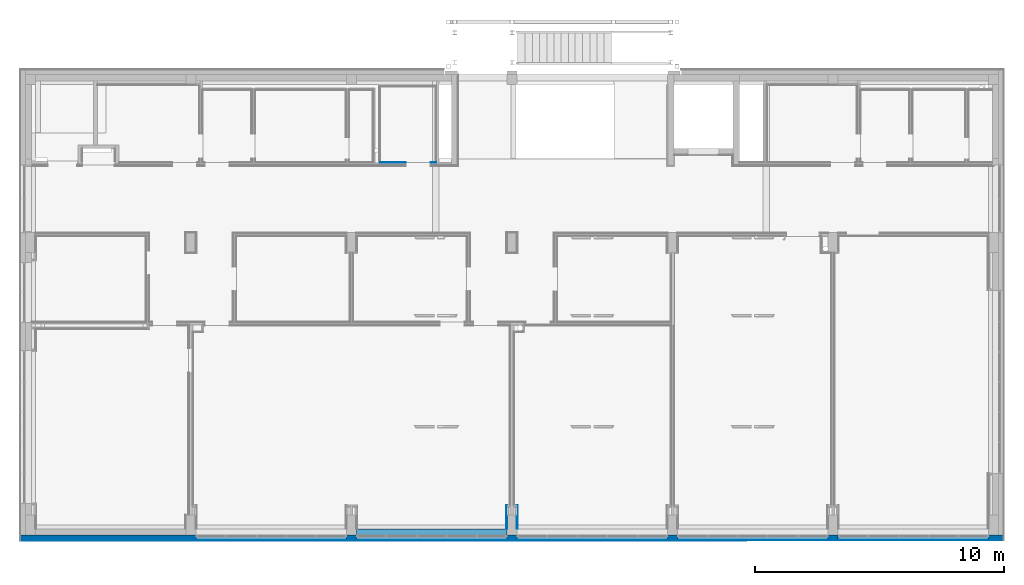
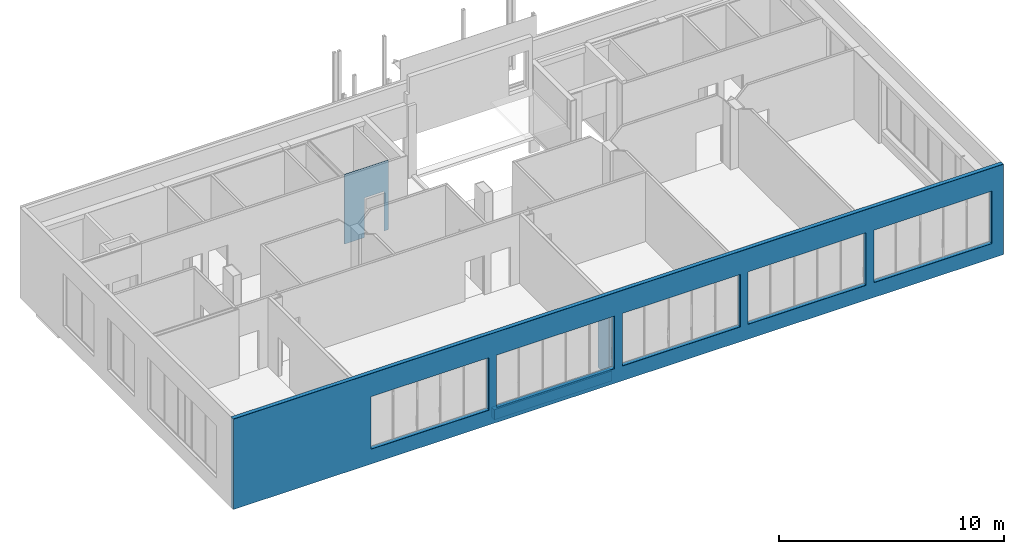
# One storey, part 19 of 29: 6 walls, 11 openings.
"""IFC2X3 building model written with IfcOpenShell, lengths in centimetres."""

import ifcopenshell
import ifcopenshell.guid

model = None  # the IFC model being written
_history = None  # IfcOwnerHistory: only IFC2X3 demands one
_inside = {}  # id of a spatial element -> (the spatial element, [elements in it])
_under = {}  # id of a project, library or spatial element -> (it, [spatial elements below it])
_declared = {}  # id of a project -> (the project, [libraries it declares])
_typed = {}  # id of a type object -> (the type object, [elements of that type])
_made_of = {}  # id of a material, layer set ... -> (it, [elements and type objects made of it])


def new_model(schema):
    """Start an empty IFC model of exactly this schema.

    Asked for "IFC4X3", IfcOpenShell would pick the latest addendum, in which some entities
    have other attributes; the version numbers below select the first issue.
    IFC2X3 requires an IfcOwnerHistory on every rooted entity: one is made here for all.
    """
    global model, _history
    if schema == "IFC4X3":
        model = ifcopenshell.file(schema_version=(4, 3, 0, 0))
    else:
        model = ifcopenshell.file(schema=schema)
    _inside.clear()
    _under.clear()
    _declared.clear()
    _typed.clear()
    _made_of.clear()
    _history = None
    if model.schema == "IFC2X3":
        org = make("IfcOrganization", Name="unknown")
        user = make(
            "IfcPersonAndOrganization",
            ThePerson=make("IfcPerson", FamilyName="unknown"),
            TheOrganization=org,
        )
        app = make(
            "IfcApplication",
            ApplicationDeveloper=org,
            Version="unknown",
            ApplicationFullName="unknown",
            ApplicationIdentifier="unknown",
        )
        _history = make(
            "IfcOwnerHistory",
            OwningUser=user,
            OwningApplication=app,
            ChangeAction="ADDED",
            CreationDate=0,
        )
    return model


def make(cls, **values):
    """One entity of the class cls with the attributes given. An attribute that is None is left unset."""
    return model.create_entity(
        cls, **{name: value for name, value in values.items() if value is not None}
    )


def entity(cls, *values):
    """Any entity or typed value of the class cls, its attributes in the order of the schema. None: left unset."""
    e = model.create_entity(cls)
    for i, value in enumerate(values):
        if value is not None:
            e[i] = value
    return e


def rooted(cls, **values):
    """An entity with a GlobalId (a new one), such as an element, a storey or a relation."""
    return make(cls, GlobalId=ifcopenshell.guid.new(), OwnerHistory=_history, **values)


def si_unit(unit_type, name, prefix=None):
    """IfcSIUnit, for example si_unit("LENGTHUNIT", "METRE", prefix="MILLI")."""
    return make("IfcSIUnit", UnitType=unit_type, Prefix=prefix, Name=name)


def converted_unit(unit_type, name, factor, base, dimensions=None, offset=None):
    """IfcConversionBasedUnit, such as the inch: factor (a typed value) times the base unit."""
    return make(
        "IfcConversionBasedUnit"
        if offset is None
        else "IfcConversionBasedUnitWithOffset",
        ConversionOffset=offset,
        Dimensions=None
        if dimensions is None
        else entity("IfcDimensionalExponents", *dimensions),
        UnitType=unit_type,
        Name=name,
        ConversionFactor=make(
            "IfcMeasureWithUnit", ValueComponent=factor, UnitComponent=base
        ),
    )


def derived_unit(unit_type, elements):
    """IfcDerivedUnit: a product of units, each with its exponent."""
    return make(
        "IfcDerivedUnit",
        Elements=[
            make("IfcDerivedUnitElement", Unit=unit, Exponent=power)
            for unit, power in elements
        ],
        UnitType=unit_type,
    )


def assignment(units):
    """IfcUnitAssignment: the units of a project."""
    return None if units is None else make("IfcUnitAssignment", Units=units)


def point(xyz):
    """IfcCartesianPoint."""
    return None if xyz is None else make("IfcCartesianPoint", Coordinates=xyz)


def direction(xyz):
    """IfcDirection."""
    return None if xyz is None else make("IfcDirection", DirectionRatios=xyz)


def frame(location, z_axis=None, x_axis=None):
    """IfcAxis2Placement3D, a coordinate frame: its origin and axes. An axis left out is left unset."""
    return make(
        "IfcAxis2Placement3D",
        Location=point(location),
        Axis=direction(z_axis),
        RefDirection=direction(x_axis),
    )


def frame_2d(location, x_axis=None):
    """IfcAxis2Placement2D, a coordinate frame in the plane: its origin and x axis."""
    return make(
        "IfcAxis2Placement2D", Location=point(location), RefDirection=direction(x_axis)
    )


def origin():
    """The frame at (0, 0, 0) with its axes left unset."""
    return frame((0.0, 0.0, 0.0))


def place(relative_to, where):
    """IfcLocalPlacement: puts the frame where relative to a parent placement (None: the world)."""
    return make(
        "IfcLocalPlacement", PlacementRelTo=relative_to, RelativePlacement=where
    )


def context(
    kind, dimensions, precision=None, world=None, true_north=None, identifier=None
):
    """IfcGeometricRepresentationContext, for example the 3D "Model" context."""
    return make(
        "IfcGeometricRepresentationContext",
        ContextIdentifier=identifier,
        ContextType=kind,
        CoordinateSpaceDimension=dimensions,
        Precision=precision,
        WorldCoordinateSystem=world,
        TrueNorth=true_north,
    )


def subcontext(parent, identifier, kind, view, scale=None):
    """IfcGeometricRepresentationSubContext, for example "Body" below "Model"."""
    return make(
        "IfcGeometricRepresentationSubContext",
        ContextIdentifier=identifier,
        ContextType=kind,
        ParentContext=parent,
        TargetScale=scale,
        TargetView=view,
    )


def project(units=None, contexts=None):
    """IfcProject with its units and contexts."""
    return rooted(
        "IfcProject",
        Name="project",
        RepresentationContexts=contexts,
        UnitsInContext=assignment(units),
    )


def spatial(cls, under=None, at=None, **own):
    """A site, building, storey or space (cls), placed at a placement, below another one or the project."""
    s = rooted(cls, ObjectPlacement=at, **own)
    if under is not None:
        _under.setdefault(under.id(), (under, []))[1].append(s)
    return s


def profile(cls, at=None, kind="AREA", **sizes):
    """A parametric profile (cls). Its sizes go by their IFC names, for example OverallWidth=200.0."""
    return make(cls, ProfileType=kind, Position=at, **sizes)


def rectangle(**sizes):
    """IfcRectangleProfileDef."""
    return profile("IfcRectangleProfileDef", **sizes)


def extrude(swept, where, along, depth):
    """IfcExtrudedAreaSolid: the profile swept, set in the frame where, extruded along a direction by depth."""
    return make(
        "IfcExtrudedAreaSolid",
        SweptArea=swept,
        Position=where,
        ExtrudedDirection=direction(along),
        Depth=depth,
    )


def shape(context_of_items, identifier, shape_type, items):
    """IfcShapeRepresentation: the items that make up one representation, for example the "Body"."""
    return make(
        "IfcShapeRepresentation",
        ContextOfItems=context_of_items,
        RepresentationIdentifier=identifier,
        RepresentationType=shape_type,
        Items=items,
    )


def material(Name=None, Category=None):
    """IfcMaterial."""
    return make("IfcMaterial", Name=Name, Category=Category)


def layer(
    of_material, thickness, ventilated=None, Name=None, Category=None, Priority=None
):
    """IfcMaterialLayer: one layer of a wall or slab, of a material (None: an air gap)."""
    return make(
        "IfcMaterialLayer",
        Material=of_material,
        LayerThickness=thickness,
        IsVentilated=ventilated,
        Name=Name,
        Category=Category,
        Priority=Priority,
    )


def layer_set(layers, Name=None):
    """IfcMaterialLayerSet."""
    return make("IfcMaterialLayerSet", MaterialLayers=layers, LayerSetName=Name)


def layer_usage(for_layer_set, set_direction, sense, offset, extent=None):
    """IfcMaterialLayerSetUsage: how a layer set lies in its element."""
    return make(
        "IfcMaterialLayerSetUsage",
        ForLayerSet=for_layer_set,
        LayerSetDirection=set_direction,
        DirectionSense=sense,
        OffsetFromReferenceLine=offset,
        ReferenceExtent=extent,
    )


def made_of(thing, what):
    """Note that an element or type object is made of a material, layer set ...; save() writes the relation."""
    if what is not None:
        _made_of.setdefault(what.id(), (what, []))[1].append(thing)
    return thing


def type_object(cls, material=None, **own):
    """A type object (cls), such as IfcWallType, which elements share."""
    return made_of(rooted(cls, **own), material)


def element(
    cls,
    number,
    at=None,
    inside=None,
    cuts=None,
    type_object=None,
    material=None,
    context=None,
    identifier="Body",
    shape_type=None,
    held_by="IfcProductDefinitionShape",
    body=None,
    shapes=None,
    **own,
):
    """One element of the class cls, such as IfcWall. Its Tag is "e" and its number.

    at: its placement. inside: the storey or other place that contains it. cuts: it is an
    opening in that element (IfcRelVoidsElement). A single representation is given by context,
    identifier, shape_type and body (its items); several are given by shapes. held_by: the class
    of the entity that holds the representations. save() writes the other relations.
    """
    e = rooted(cls, Tag="e%d" % number, ObjectPlacement=at, **own)
    if body is not None:
        shapes = [shape(context, identifier, shape_type, body)]
    if shapes is not None:
        e.Representation = make(held_by, Representations=shapes)
    if inside is not None:
        _inside.setdefault(inside.id(), (inside, []))[1].append(e)
    if cuts is not None:
        rooted(
            "IfcRelVoidsElement", RelatingBuildingElement=cuts, RelatedOpeningElement=e
        )
    if type_object is not None:
        _typed.setdefault(type_object.id(), (type_object, []))[1].append(e)
    return made_of(e, material)


def aggregate(whole, parts):
    """IfcRelAggregates: a whole, such as a stair, and the parts it consists of."""
    return rooted("IfcRelAggregates", RelatingObject=whole, RelatedObjects=parts)


def save(model, path):
    """Write the relations noted so far, then the file.

    IfcRelAggregates (storeys below a building ...), IfcRelContainedInSpatialStructure (elements
    in a storey), IfcRelDefinesByType, IfcRelAssociatesMaterial and IfcRelDeclares: one each for
    every whole, place, type object, material and project.
    """
    for whole, parts in _under.values():
        aggregate(whole, parts)
    for where, things in _inside.values():
        rooted(
            "IfcRelContainedInSpatialStructure",
            RelatedElements=things,
            RelatingStructure=where,
        )
    for kind, things in _typed.values():
        rooted("IfcRelDefinesByType", RelatedObjects=things, RelatingType=kind)
    for what, things in _made_of.values():
        rooted("IfcRelAssociatesMaterial", RelatedObjects=things, RelatingMaterial=what)
    for by, libraries in _declared.values():
        rooted("IfcRelDeclares", RelatingContext=by, RelatedDefinitions=libraries)
    model.write(path)


model = new_model("IFC2X3")

# Units and contexts
model_context = context("Model", 3, precision=0.001, world=origin(), true_north=direction((6.12303176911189e-17, 1.0)))
body_context = subcontext(model_context, "Body", "Model", "MODEL_VIEW")
ifc_project = project(units=[si_unit("LENGTHUNIT", "METRE", prefix="CENTI"), si_unit("AREAUNIT", "SQUARE_METRE"), si_unit("VOLUMEUNIT", "CUBIC_METRE"), converted_unit("PLANEANGLEUNIT", "DEGREE", entity("IfcRatioMeasure", 0.0174532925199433), si_unit("PLANEANGLEUNIT", "RADIAN"), dimensions=[0, 0, 0, 0, 0, 0, 0]), si_unit("MASSUNIT", "GRAM", prefix="KILO"), derived_unit("MASSDENSITYUNIT", [(si_unit("MASSUNIT", "GRAM", prefix="KILO"), 1), (si_unit("LENGTHUNIT", "METRE"), -3)]), derived_unit("MOMENTOFINERTIAUNIT", [(si_unit("LENGTHUNIT", "METRE"), 4)]), si_unit("TIMEUNIT", "SECOND"), si_unit("FREQUENCYUNIT", "HERTZ"), si_unit("THERMODYNAMICTEMPERATUREUNIT", "DEGREE_CELSIUS"), derived_unit("THERMALTRANSMITTANCEUNIT", [(si_unit("MASSUNIT", "GRAM", prefix="KILO"), 1), (si_unit("THERMODYNAMICTEMPERATUREUNIT", "KELVIN"), -1), (si_unit("TIMEUNIT", "SECOND"), -3)]), derived_unit("VOLUMETRICFLOWRATEUNIT", [(si_unit("LENGTHUNIT", "METRE"), 3), (si_unit("TIMEUNIT", "SECOND"), -1)]), si_unit("ELECTRICCURRENTUNIT", "AMPERE"), si_unit("ELECTRICVOLTAGEUNIT", "VOLT"), si_unit("POWERUNIT", "WATT"), si_unit("FORCEUNIT", "NEWTON", prefix="KILO"), si_unit("ILLUMINANCEUNIT", "LUX"), si_unit("LUMINOUSFLUXUNIT", "LUMEN"), si_unit("LUMINOUSINTENSITYUNIT", "CANDELA"), derived_unit("USERDEFINED", [(si_unit("MASSUNIT", "GRAM", prefix="KILO"), -1), (si_unit("LENGTHUNIT", "METRE"), -2), (si_unit("TIMEUNIT", "SECOND"), 3), (si_unit("LUMINOUSFLUXUNIT", "LUMEN"), 1)]), derived_unit("LINEARVELOCITYUNIT", [(si_unit("LENGTHUNIT", "METRE"), 1), (si_unit("TIMEUNIT", "SECOND"), -1)]), si_unit("PRESSUREUNIT", "PASCAL"), derived_unit("USERDEFINED", [(si_unit("LENGTHUNIT", "METRE"), -2), (si_unit("MASSUNIT", "GRAM", prefix="KILO"), 1), (si_unit("TIMEUNIT", "SECOND"), -2)]), derived_unit("LINEARFORCEUNIT", [(si_unit("MASSUNIT", "GRAM", prefix="KILO"), 1), (si_unit("LENGTHUNIT", "METRE"), 1), (si_unit("TIMEUNIT", "SECOND"), -2), (si_unit("LENGTHUNIT", "METRE"), -1)]), derived_unit("PLANARFORCEUNIT", [(si_unit("MASSUNIT", "GRAM", prefix="KILO"), 1), (si_unit("LENGTHUNIT", "METRE"), 1), (si_unit("TIMEUNIT", "SECOND"), -2), (si_unit("LENGTHUNIT", "METRE"), -2)])], contexts=[model_context])

# Site, building, storey
site_placement = place(None, origin())
site = spatial("IfcSite", under=ifc_project, at=site_placement, Name="Default", CompositionType="ELEMENT")
building_placement = place(site_placement, origin())
building = spatial("IfcBuilding", under=site, at=building_placement, CompositionType="ELEMENT")
storey_placement = place(building_placement, frame((0.0, 0.0, 545.0)))
storey = spatial("IfcBuildingStorey", under=building, at=storey_placement, Name="Poziom 1K +5,45", CompositionType="ELEMENT", Elevation=544.999999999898)

# Wall
ifc_material_1 = material(Name="Pustak ceramiczny, klasa 15")
ifc_layer_1 = layer(ifc_material_1, 25.0)
ifc_layer_set_1 = layer_set([ifc_layer_1], Name="Ściana podstawowa:Ściana murowana gr. 25cm")
ifc_layer_usage_1 = layer_usage(ifc_layer_set_1, "AXIS2", "POSITIVE", -12.5)
wall_type_1 = type_object("IfcWallType", Name="Ściana podstawowa:Ściana murowana gr. 25cm", PredefinedType="STANDARD", material=ifc_layer_set_1)
wall_1_placement = place(storey_placement, frame((-1604.26510661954, 267.62765760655, 0.0)))
element("IfcWallStandardCase", 1, at=wall_1_placement, inside=storey, type_object=wall_type_1, material=ifc_layer_usage_1, Name="Ściana podstawowa:Ściana murowana gr. 25cm", ObjectType="Ściana podstawowa:Ściana murowana gr. 25cm", context=body_context, shape_type="SweptSolid", body=[
    extrude(rectangle(XDim=605.000000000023, YDim=24.9999999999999, at=frame_2d((302.500000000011, 0.0), x_axis=(-1.0, 0.0))), origin(), (0.0, 0.0, 1.0), 55.0000000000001),
])

# Wall, opening
ifc_material_2 = material(Name="Tynk gipsowy")
ifc_layer_2 = layer(ifc_material_2, 2.5)
ifc_layer_set_2 = layer_set([ifc_layer_2], Name="Ściana podstawowa:Ściana GK wykonczenie gr. 2,5cm")
ifc_layer_usage_2 = layer_usage(ifc_layer_set_2, "AXIS2", "NEGATIVE", 1.25)
wall_type_2 = type_object("IfcWallType", Name="Ściana podstawowa:Ściana GK wykonczenie gr. 2,5cm", PredefinedType="STANDARD", material=ifc_layer_set_2)
wall_2_placement = place(storey_placement, frame((-1282.7651174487, 1751.87745205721, 13.0), z_axis=(0.0, 0.0, 1.0), x_axis=(-1.0, 0.0, 0.0)))
wall_2 = element("IfcWallStandardCase", 2, at=wall_2_placement, inside=storey, type_object=wall_type_2, material=ifc_layer_usage_2, Name="Ściana podstawowa:Ściana GK wykonczenie gr. 2,5cm", ObjectType="Ściana podstawowa:Ściana GK wykonczenie gr. 2,5cm", context=body_context, shape_type="SweptSolid", body=[
    extrude(rectangle(XDim=226.500000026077, YDim=2.49999999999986, at=frame_2d((113.250000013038, 0.0), x_axis=(-1.0, 0.0))), origin(), (0.0, 0.0, 1.0), 377.000000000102),
])
opening_1_placement = place(wall_2_placement, origin())
element("IfcOpeningElement", 3, at=opening_1_placement, cuts=wall_2, Name="Ściana podstawowa:Ściana GK wykonczenie gr. 2,5cm", ObjectType="Opening", context=body_context, shape_type="SweptSolid", body=[
    extrude(rectangle(XDim=215.0, YDim=99.9999999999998, at=frame_2d((-1.10134124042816e-13, 0.0), x_axis=(0.0, 1.0))), frame((72.5000000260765, -151.15, 107.5), z_axis=(0.0, 1.0, 0.0), x_axis=(1.0, 0.0, 0.0)), (0.0, 0.0, 1.0), 304.8),
])

# Walls
ifc_layer_usage_3 = layer_usage(ifc_layer_set_2, "AXIS2", "NEGATIVE", 1.25)
wall_3_placement = place(storey_placement, frame((-1000.51509263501, 375.127452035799, 0.0), z_axis=(0.0, 0.0, 1.0), x_axis=(0.0, -1.0, 0.0)))
element("IfcWallStandardCase", 4, at=wall_3_placement, inside=storey, type_object=wall_type_2, material=ifc_layer_usage_3, Name="Ściana podstawowa:Ściana GK wykonczenie gr. 2,5cm", ObjectType="Ściana podstawowa:Ściana GK wykonczenie gr. 2,5cm", context=body_context, shape_type="SweptSolid", body=[
    extrude(rectangle(XDim=95.0, YDim=2.49999999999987, at=frame_2d((47.5, 2.88657986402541e-15), x_axis=(-1.0, 0.0))), origin(), (0.0, 0.0, 1.0), 390.000000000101),
])
ifc_layer_usage_4 = layer_usage(ifc_layer_set_2, "AXIS2", "NEGATIVE", 1.25)
wall_4_placement = place(storey_placement, frame((-958.01512023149, 375.127452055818, 0.0), z_axis=(0.0, 0.0, 1.0), x_axis=(0.0, -1.0, 0.0)))
element("IfcWallStandardCase", 5, at=wall_4_placement, inside=storey, type_object=wall_type_2, material=ifc_layer_usage_4, Name="Ściana podstawowa:Ściana GK wykonczenie gr. 2,5cm", ObjectType="Ściana podstawowa:Ściana GK wykonczenie gr. 2,5cm", context=body_context, shape_type="SweptSolid", body=[
    extrude(rectangle(XDim=94.9997944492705, YDim=2.50000000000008, at=frame_2d((47.4998972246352, 0.0), x_axis=(-1.0, 0.0))), origin(), (0.0, 0.0, 1.0), 390.000000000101),
])

# Wall, openings
ifc_material_3 = material(Name="Wełna skalna")
ifc_layer_3 = layer(ifc_material_3, 20.0)
ifc_layer_set_3 = layer_set([ifc_layer_3], Name="Ściana podstawowa:Wełna mineralna gr. 20cm")
ifc_layer_usage_5 = layer_usage(ifc_layer_set_3, "AXIS2", "NEGATIVE", 10.0)
wall_type_3 = type_object("IfcWallType", Name="Ściana podstawowa:Wełna mineralna gr. 20cm", PredefinedType="STANDARD", material=ifc_layer_set_3)
wall_5_placement = place(storey_placement, frame((-2954.26512060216, 245.127452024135, 0.0)))
wall_5 = element("IfcWallStandardCase", 6, at=wall_5_placement, inside=storey, type_object=wall_type_3, material=ifc_layer_usage_5, Name="Ściana podstawowa:Wełna mineralna gr. 20cm", ObjectType="Ściana podstawowa:Wełna mineralna gr. 20cm", context=body_context, shape_type="SweptSolid", body=[
    extrude(rectangle(XDim=3950.00000091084, YDim=20.0, at=frame_2d((1975.00000045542, 0.0), x_axis=(-1.0, 0.0))), origin(), (0.0, 0.0, 1.0), 490.000000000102),
])
opening_2_placement = place(wall_5_placement, origin())
element("IfcOpeningElement", 7, at=opening_2_placement, cuts=wall_5, Name="Ściana podstawowa:Wełna mineralna gr. 20cm", ObjectType="Opening", context=body_context, shape_type="SweptSolid", body=[
    extrude(rectangle(XDim=284.999999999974, YDim=604.999999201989, at=frame_2d((-1.98951966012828e-13, 0.0), x_axis=(0.0, -1.0))), frame((1007.50001358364, 10.0, 222.500000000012), z_axis=(0.0, 1.0, 0.0), x_axis=(-1.0, 0.0, 0.0)), (0.0, 0.0, -1.0), 20.0),
])
opening_3_placement = place(wall_5_placement, origin())
element("IfcOpeningElement", 8, at=opening_3_placement, cuts=wall_5, Name="Ściana podstawowa:Wełna mineralna gr. 20cm", ObjectType="Opening", context=body_context, shape_type="SweptSolid", body=[
    extrude(rectangle(XDim=284.999999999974, YDim=604.999985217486, at=frame_2d((-1.13686837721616e-13, 0.0), x_axis=(0.0, -1.0))), frame((1652.50002057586, 10.0, 222.500000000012), z_axis=(0.0, 1.0, 0.0), x_axis=(-1.0, 0.0, 0.0)), (0.0, 0.0, -1.0), 20.0),
])
opening_4_placement = place(wall_5_placement, origin())
element("IfcOpeningElement", 9, at=opening_4_placement, cuts=wall_5, Name="Ściana podstawowa:Wełna mineralna gr. 20cm", ObjectType="Opening", context=body_context, shape_type="SweptSolid", body=[
    extrude(rectangle(XDim=284.999999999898, YDim=605.000012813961, at=frame_2d((2.8421709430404e-14, -5.6843418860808e-14), x_axis=(0.0, -1.0))), frame((2297.50000677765, 10.0, 222.500000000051), z_axis=(0.0, 1.0, 0.0), x_axis=(-1.0, 0.0, 0.0)), (0.0, 0.0, -1.0), 20.0),
])
opening_5_placement = place(wall_5_placement, origin())
element("IfcOpeningElement", 10, at=opening_5_placement, cuts=wall_5, Name="Ściana podstawowa:Wełna mineralna gr. 20cm", ObjectType="Opening", context=body_context, shape_type="SweptSolid", body=[
    extrude(rectangle(XDim=284.999999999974, YDim=604.99998601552, at=frame_2d((0.0, -2.8421709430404e-14), x_axis=(1.0, 0.0))), frame((2942.50000698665, 10.0, 222.500000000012), z_axis=(0.0, 1.0, 0.0), x_axis=(0.0, 0.0, 1.0)), (0.0, 0.0, -1.0), 20.0),
])
opening_6_placement = place(wall_5_placement, origin())
element("IfcOpeningElement", 11, at=opening_6_placement, cuts=wall_5, Name="Ściana podstawowa:Wełna mineralna gr. 20cm", ObjectType="Opening", context=body_context, shape_type="SweptSolid", body=[
    extrude(rectangle(XDim=284.999999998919, YDim=605.000001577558, at=frame_2d((-2.8421709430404e-14, 5.6843418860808e-14), x_axis=(0.0, 1.0))), frame((3587.50001239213, 10.0, 222.499999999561), z_axis=(0.0, -1.0, 0.0), x_axis=(-1.0, 0.0, 0.0)), (0.0, 0.0, 1.0), 20.0),
])

ifc_layer_4 = layer(ifc_material_2, 2.0)
ifc_layer_set_4 = layer_set([ifc_layer_4], Name="Ściana podstawowa:Tynk zewnętrzny gr. 2cm")
ifc_layer_usage_6 = layer_usage(ifc_layer_set_4, "AXIS2", "NEGATIVE", 1.0)
wall_type_4 = type_object("IfcWallType", Name="Ściana podstawowa:Tynk zewnętrzny gr. 2cm", PredefinedType="STANDARD", material=ifc_layer_set_4)
wall_6_placement = place(storey_placement, frame((-2954.26512060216, 234.127452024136, 0.0)))
wall_6 = element("IfcWallStandardCase", 12, at=wall_6_placement, inside=storey, type_object=wall_type_4, material=ifc_layer_usage_6, Name="Ściana podstawowa:Tynk zewnętrzny gr. 2cm", ObjectType="Ściana podstawowa:Tynk zewnętrzny gr. 2cm", context=body_context, shape_type="SweptSolid", body=[
    extrude(rectangle(XDim=3950.00000508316, YDim=1.99999999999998, at=frame_2d((1975.00000254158, 0.0), x_axis=(-1.0, 0.0))), origin(), (0.0, 0.0, 1.0), 490.000000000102),
])
opening_7_placement = place(wall_6_placement, origin())
element("IfcOpeningElement", 13, at=opening_7_placement, cuts=wall_6, Name="Ściana podstawowa:Tynk zewnętrzny gr. 2cm", ObjectType="Opening", context=body_context, shape_type="SweptSolid", body=[
    extrude(rectangle(XDim=284.999999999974, YDim=604.999999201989, at=frame_2d((-1.98951966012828e-13, 0.0), x_axis=(0.0, 1.0))), frame((1007.50001358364, 1.0, 222.500000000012), z_axis=(0.0, -1.0, 0.0), x_axis=(-1.0, 0.0, 0.0)), (0.0, 0.0, 1.0), 2.0),
])
opening_8_placement = place(wall_6_placement, origin())
element("IfcOpeningElement", 14, at=opening_8_placement, cuts=wall_6, Name="Ściana podstawowa:Tynk zewnętrzny gr. 2cm", ObjectType="Opening", context=body_context, shape_type="SweptSolid", body=[
    extrude(rectangle(XDim=284.999999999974, YDim=604.999985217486, at=frame_2d((-1.13686837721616e-13, 0.0), x_axis=(0.0, 1.0))), frame((1652.50002057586, 1.0, 222.500000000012), z_axis=(0.0, -1.0, 0.0), x_axis=(-1.0, 0.0, 0.0)), (0.0, 0.0, 1.0), 2.0),
])
opening_9_placement = place(wall_6_placement, origin())
element("IfcOpeningElement", 15, at=opening_9_placement, cuts=wall_6, Name="Ściana podstawowa:Tynk zewnętrzny gr. 2cm", ObjectType="Opening", context=body_context, shape_type="SweptSolid", body=[
    extrude(rectangle(XDim=284.999999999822, YDim=605.000012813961, at=frame_2d((0.0, 1.13686837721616e-13), x_axis=(0.0, 1.0))), frame((2297.50000677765, 1.0, 222.499999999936), z_axis=(0.0, -1.0, 0.0), x_axis=(-1.0, 0.0, 0.0)), (0.0, 0.0, 1.0), 2.0),
])
opening_10_placement = place(wall_6_placement, origin())
element("IfcOpeningElement", 16, at=opening_10_placement, cuts=wall_6, Name="Ściana podstawowa:Tynk zewnętrzny gr. 2cm", ObjectType="Opening", context=body_context, shape_type="SweptSolid", body=[
    extrude(rectangle(XDim=284.999999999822, YDim=604.99998601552, at=frame_2d((-1.13686837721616e-13, 0.0), x_axis=(1.0, 0.0))), frame((2942.50000698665, 1.0, 222.499999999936), z_axis=(0.0, -1.0, 0.0), x_axis=(0.0, 0.0, 1.0)), (0.0, 0.0, 1.0), 2.0),
])
opening_11_placement = place(wall_6_placement, origin())
element("IfcOpeningElement", 17, at=opening_11_placement, cuts=wall_6, Name="Ściana podstawowa:Tynk zewnętrzny gr. 2cm", ObjectType="Opening", context=body_context, shape_type="SweptSolid", body=[
    extrude(rectangle(XDim=284.999999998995, YDim=605.000001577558, at=frame_2d((0.0, 1.13686837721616e-13), x_axis=(0.0, 1.0))), frame((3587.50001239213, 1.0, 222.499999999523), z_axis=(0.0, -1.0, 0.0), x_axis=(-1.0, 0.0, 0.0)), (0.0, 0.0, 1.0), 2.0),
])

save(model, "model.ifc")
